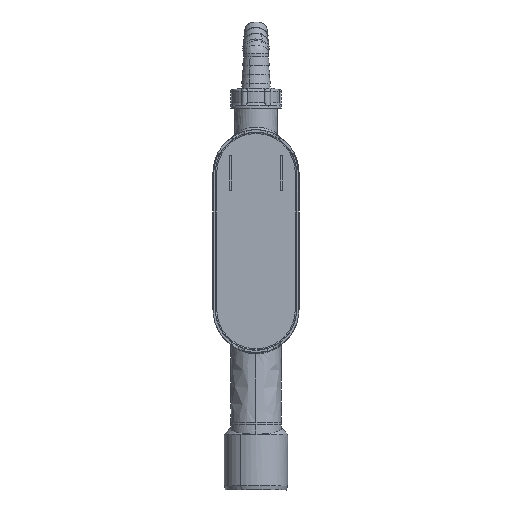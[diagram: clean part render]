
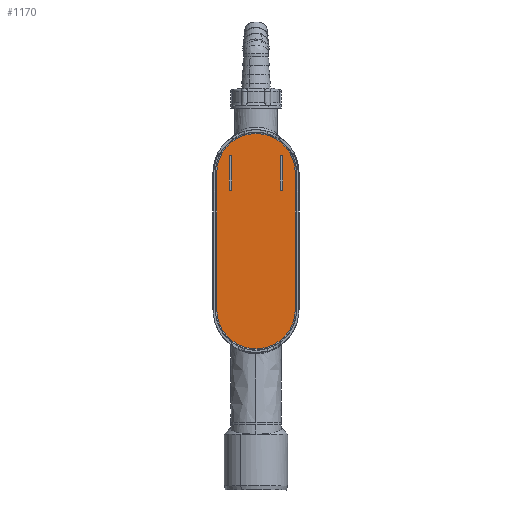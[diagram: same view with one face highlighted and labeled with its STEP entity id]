
A CAD part, left-side view. The second image highlights one B-rep face of the part: STEP entity #1170.
In plain terms, the highlighted free-form (B-spline) face has degree [1, 1] with [2, 2] control points.
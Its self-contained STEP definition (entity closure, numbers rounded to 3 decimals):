
#1170=ADVANCED_FACE('',(#3073,#3074,#3075),#3076,.T.);
#2446=VERTEX_POINT('',#4380);
#2450=VERTEX_POINT('',#4384);
#2454=EDGE_CURVE('',#2446,#2450,#4388,.T.);
#2464=VERTEX_POINT('',#4398);
#2468=EDGE_CURVE('',#2464,#2446,#4402,.T.);
#2470=VERTEX_POINT('',#4404);
#2474=EDGE_CURVE('',#2470,#2464,#4408,.T.);
#2478=EDGE_CURVE('',#2450,#2470,#4412,.T.);
#2510=VERTEX_POINT('',#4444);
#2512=VERTEX_POINT('',#4446);
#2514=EDGE_CURVE('',#2510,#2512,#4448,.T.);
#2516=VERTEX_POINT('',#4450);
#2518=EDGE_CURVE('',#2516,#2510,#4452,.T.);
#2520=VERTEX_POINT('',#4454);
#2522=EDGE_CURVE('',#2520,#2516,#4456,.T.);
#2524=EDGE_CURVE('',#2512,#2520,#4458,.T.);
#2526=VERTEX_POINT('',#4460);
#2528=VERTEX_POINT('',#4462);
#2530=EDGE_CURVE('',#2526,#2528,#4464,.T.);
#2532=VERTEX_POINT('',#4466);
#2534=EDGE_CURVE('',#2532,#2526,#4468,.T.);
#2536=VERTEX_POINT('',#4470);
#2538=EDGE_CURVE('',#2536,#2532,#4472,.T.);
#2540=EDGE_CURVE('',#2528,#2536,#4474,.T.);
#3073=FACE_OUTER_BOUND('',#6796,.T.);
#3074=FACE_BOUND('',#6797,.T.);
#3075=FACE_BOUND('',#6798,.T.);
#3076=B_SPLINE_SURFACE_WITH_KNOTS('',1,1,((#6799,#6800),(#6801,#6802)),.UNSPECIFIED.,.F.,.F.,.F.,(2,2),(2,2),(0.079,0.921),(0.008,0.992),.UNSPECIFIED.);
#4380=CARTESIAN_POINT('',(-23.,-31.017,108.));
#4384=CARTESIAN_POINT('',(-23.,31.017,108.));
#4388=CIRCLE('',#10438,31.017);
#4398=CARTESIAN_POINT('',(-23.,-31.017,0.));
#4402=LINE('',#10471,#10472);
#4404=CARTESIAN_POINT('',(-23.,31.017,0.));
#4408=CIRCLE('',#10489,31.017);
#4412=LINE('',#10496,#10497);
#4444=CARTESIAN_POINT('',(-23.,-19.,95.));
#4446=CARTESIAN_POINT('',(-23.,-21.,95.));
#4448=CIRCLE('',#10551,1.0);
#4450=CARTESIAN_POINT('',(-23.,-19.,121.));
#4452=LINE('',#10556,#10557);
#4454=CARTESIAN_POINT('',(-23.,-21.,121.));
#4456=CIRCLE('',#10562,1.);
#4458=LINE('',#10565,#10566);
#4460=CARTESIAN_POINT('',(-23.,21.,121.));
#4462=CARTESIAN_POINT('',(-23.,21.,95.));
#4464=LINE('',#10573,#10574);
#4466=CARTESIAN_POINT('',(-23.,19.,121.));
#4468=CIRCLE('',#10579,1.);
#4470=CARTESIAN_POINT('',(-23.,19.,95.));
#4472=LINE('',#10584,#10585);
#4474=CIRCLE('',#10588,1.0);
#6796=EDGE_LOOP('',(#11632,#11633,#11634,#11635));
#6797=EDGE_LOOP('',(#11636,#11637,#11638,#11639));
#6798=EDGE_LOOP('',(#11640,#11641,#11642,#11643));
#6799=CARTESIAN_POINT('',(-23.,31.018,139.021));
#6800=CARTESIAN_POINT('',(-23.,-31.018,139.021));
#6801=CARTESIAN_POINT('',(-23.,31.018,-31.021));
#6802=CARTESIAN_POINT('',(-23.,-31.018,-31.021));
#10438=AXIS2_PLACEMENT_3D('',#12336,#12337,#12338);
#10471=CARTESIAN_POINT('',(-23.,-31.017,0.));
#10472=VECTOR('',#12343,1.0);
#10489=AXIS2_PLACEMENT_3D('',#12344,#12345,#12346);
#10496=CARTESIAN_POINT('',(-23.,31.017,108.));
#10497=VECTOR('',#12348,1.0);
#10551=AXIS2_PLACEMENT_3D('',#12365,#12366,#12367);
#10556=CARTESIAN_POINT('',(-23.,-19.,121.));
#10557=VECTOR('',#12368,1.0);
#10562=AXIS2_PLACEMENT_3D('',#12369,#12370,#12371);
#10565=CARTESIAN_POINT('',(-23.,-21.,95.));
#10566=VECTOR('',#12372,1.0);
#10573=CARTESIAN_POINT('',(-23.,21.,121.));
#10574=VECTOR('',#12373,1.0);
#10579=AXIS2_PLACEMENT_3D('',#12374,#12375,#12376);
#10584=CARTESIAN_POINT('',(-23.,19.,95.));
#10585=VECTOR('',#12377,1.0);
#10588=AXIS2_PLACEMENT_3D('',#12378,#12379,#12380);
#11632=ORIENTED_EDGE('',*,*,#2474,.T.);
#11633=ORIENTED_EDGE('',*,*,#2468,.T.);
#11634=ORIENTED_EDGE('',*,*,#2454,.T.);
#11635=ORIENTED_EDGE('',*,*,#2478,.T.);
#11636=ORIENTED_EDGE('',*,*,#2514,.F.);
#11637=ORIENTED_EDGE('',*,*,#2518,.F.);
#11638=ORIENTED_EDGE('',*,*,#2522,.F.);
#11639=ORIENTED_EDGE('',*,*,#2524,.F.);
#11640=ORIENTED_EDGE('',*,*,#2530,.F.);
#11641=ORIENTED_EDGE('',*,*,#2534,.F.);
#11642=ORIENTED_EDGE('',*,*,#2538,.F.);
#11643=ORIENTED_EDGE('',*,*,#2540,.F.);
#12336=CARTESIAN_POINT('',(-23.,0.,108.));
#12337=DIRECTION('',(-1.0,0.,0.));
#12338=DIRECTION('',(0.,-1.0,0.));
#12343=DIRECTION('',(0.,0.,1.0));
#12344=CARTESIAN_POINT('',(-23.,0.,0.));
#12345=DIRECTION('',(-1.0,0.,0.));
#12346=DIRECTION('',(0.,1.0,0.));
#12348=DIRECTION('',(0.,0.,-1.0));
#12365=CARTESIAN_POINT('',(-23.,-20.,95.));
#12366=DIRECTION('',(-1.0,0.,0.));
#12367=DIRECTION('',(0.,1.0,0.));
#12368=DIRECTION('',(0.,0.,-1.0));
#12369=CARTESIAN_POINT('',(-23.,-20.,121.));
#12370=DIRECTION('',(-1.0,0.,0.));
#12371=DIRECTION('',(0.,-1.0,0.));
#12372=DIRECTION('',(0.,0.,1.0));
#12373=DIRECTION('',(0.,0.,-1.0));
#12374=CARTESIAN_POINT('',(-23.,20.,121.));
#12375=DIRECTION('',(-1.0,0.,0.));
#12376=DIRECTION('',(0.,-1.0,0.));
#12377=DIRECTION('',(0.,0.,1.0));
#12378=CARTESIAN_POINT('',(-23.,20.,95.));
#12379=DIRECTION('',(-1.0,0.,0.));
#12380=DIRECTION('',(0.,1.0,0.));
